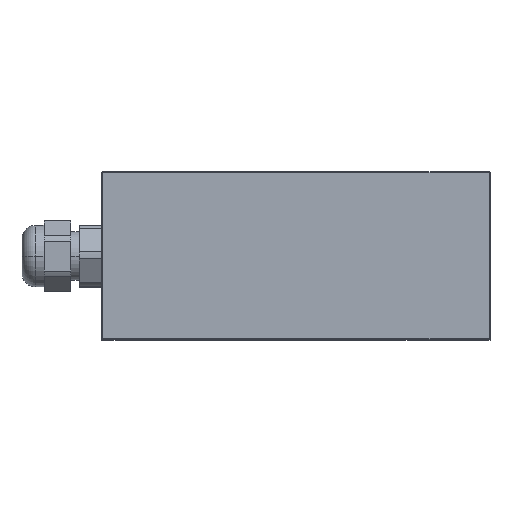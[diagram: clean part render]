
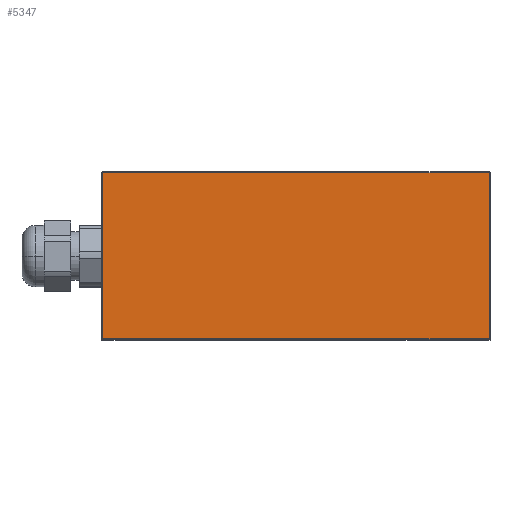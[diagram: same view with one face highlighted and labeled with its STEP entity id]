
A CAD part, top view. The second image highlights one B-rep face of the part: STEP entity #5347.
In plain terms, the highlighted planar face has unit normal (0, 0, 1).
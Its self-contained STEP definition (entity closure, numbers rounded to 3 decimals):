
#515 = CARTESIAN_POINT ( 'NONE',  ( -43.8, 37.8, 14.5 ) ) ;
#641 = EDGE_CURVE ( 'NONE', #807, #18799, #11440, .T. ) ;
#807 = VERTEX_POINT ( 'NONE', #20844 ) ;
#1499 = DIRECTION ( 'NONE',  ( 0., 1., 0. ) ) ;
#1757 = EDGE_CURVE ( 'NONE', #17919, #807, #15012, .T. ) ;
#1813 = ORIENTED_EDGE ( 'NONE', *, *, #14573, .T. ) ;
#2019 = LINE ( 'NONE', #21337, #10334 ) ;
#2339 = VECTOR ( 'NONE', #7158, 1000. ) ;
#3184 = VECTOR ( 'NONE', #9501, 1000. ) ;
#4189 = ORIENTED_EDGE ( 'NONE', *, *, #1757, .T. ) ;
#5347 = ADVANCED_FACE ( 'NONE', ( #16392 ), #17981, .F. ) ;
#5726 = VERTEX_POINT ( 'NONE', #7345 ) ;
#6925 = EDGE_CURVE ( 'NONE', #5726, #17919, #15825, .T. ) ;
#7158 = DIRECTION ( 'NONE',  ( 0., -1., 0. ) ) ;
#7234 = CARTESIAN_POINT ( 'NONE',  ( -43.8, 38., 14.5 ) ) ;
#7345 = CARTESIAN_POINT ( 'NONE',  ( 43.8, 37.8, 14.5 ) ) ;
#8053 = DIRECTION ( 'NONE',  ( -1., 0., 0. ) ) ;
#8084 = DIRECTION ( 'NONE',  ( -1., 0., 0. ) ) ;
#8099 = VECTOR ( 'NONE', #8053, 1000. ) ;
#9501 = DIRECTION ( 'NONE',  ( 1., 0., 0. ) ) ;
#9846 = CARTESIAN_POINT ( 'NONE',  ( -44., 0.2, 14.5 ) ) ;
#10334 = VECTOR ( 'NONE', #1499, 1000. ) ;
#11440 = LINE ( 'NONE', #9846, #3184 ) ;
#12977 = ORIENTED_EDGE ( 'NONE', *, *, #6925, .T. ) ;
#12986 = DIRECTION ( 'NONE',  ( 0., 0., -1. ) ) ;
#14573 = EDGE_CURVE ( 'NONE', #18799, #5726, #2019, .T. ) ;
#14634 = EDGE_LOOP ( 'NONE', ( #19427, #1813, #12977, #4189 ) ) ;
#15012 = LINE ( 'NONE', #7234, #2339 ) ;
#15825 = LINE ( 'NONE', #16418, #8099 ) ;
#16294 = CARTESIAN_POINT ( 'NONE',  ( -44., 38., 14.5 ) ) ;
#16392 = FACE_OUTER_BOUND ( 'NONE', #14634, .T. ) ;
#16418 = CARTESIAN_POINT ( 'NONE',  ( -44., 37.8, 14.5 ) ) ;
#17919 = VERTEX_POINT ( 'NONE', #515 ) ;
#17981 = PLANE ( 'NONE',  #21370 ) ;
#18799 = VERTEX_POINT ( 'NONE', #21499 ) ;
#19427 = ORIENTED_EDGE ( 'NONE', *, *, #641, .T. ) ;
#20844 = CARTESIAN_POINT ( 'NONE',  ( -43.8, 0.2, 14.5 ) ) ;
#21337 = CARTESIAN_POINT ( 'NONE',  ( 43.8, 38., 14.5 ) ) ;
#21370 = AXIS2_PLACEMENT_3D ( 'NONE', #16294, #12986, #8084 ) ;
#21499 = CARTESIAN_POINT ( 'NONE',  ( 43.8, 0.2, 14.5 ) ) ;
